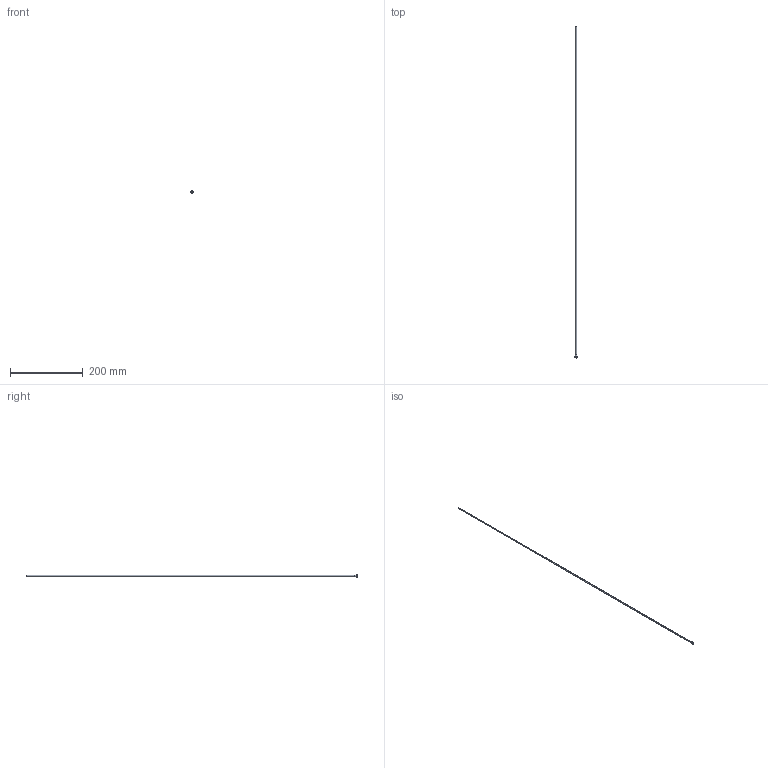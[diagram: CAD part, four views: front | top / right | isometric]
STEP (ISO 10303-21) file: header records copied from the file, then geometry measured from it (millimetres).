
FILE_DESCRIPTION(/* description */ (''),/* implementation_level */ '2;1');
FILE_NAME(/* name */ 'C:/Users/drich/Desktop/R125T-36 v2.step',/* time_stamp */ '2019-12-30T13:13:30-06:00',/* author */ (''),/* organization */ (''),/* preprocessor_version */ 'ST-DEVELOPER v18',/* originating_system */ 'Autodesk Translation Framework v8.12.0.6',/* authorisation */ '');
FILE_SCHEMA (('AP203_CONFIGURATION_CONTROLLED_3D_DESIGN_OF_MECHANICAL_PARTS_AND_ASSEMBLIES_MIM_LF { 1 0 10303 203 3 1 4 }','AUTOMOTIVE_DESIGN { 1 0 10303 214 3 1 1 }'));
Length unit declared in the file: inch
Products named in the file (1): R125T-36
Bounding box: 6.21 x 914.4 x 6.21 mm (x, y, z)
Volume: 1851.9 mm3; surface area: 17059.4 mm2
Topology: 1 solids, 1 shells, 19 faces, 47 edges, 33 vertices
Faces by surface type: plane 11, cylinder 4, torus 3, cone 1
Full cylindrical faces by diameter (mm): 2.743 x1, 3.15 x1, 4.727 x1, 6.213 x1
Entity records: 624 total; most frequent: DIRECTION 111, CARTESIAN_POINT 100, ORIENTED_EDGE 94, EDGE_CURVE 47, AXIS2_PLACEMENT_3D 44, VERTEX_POINT 33, EDGE_LOOP 24, CIRCLE 24
